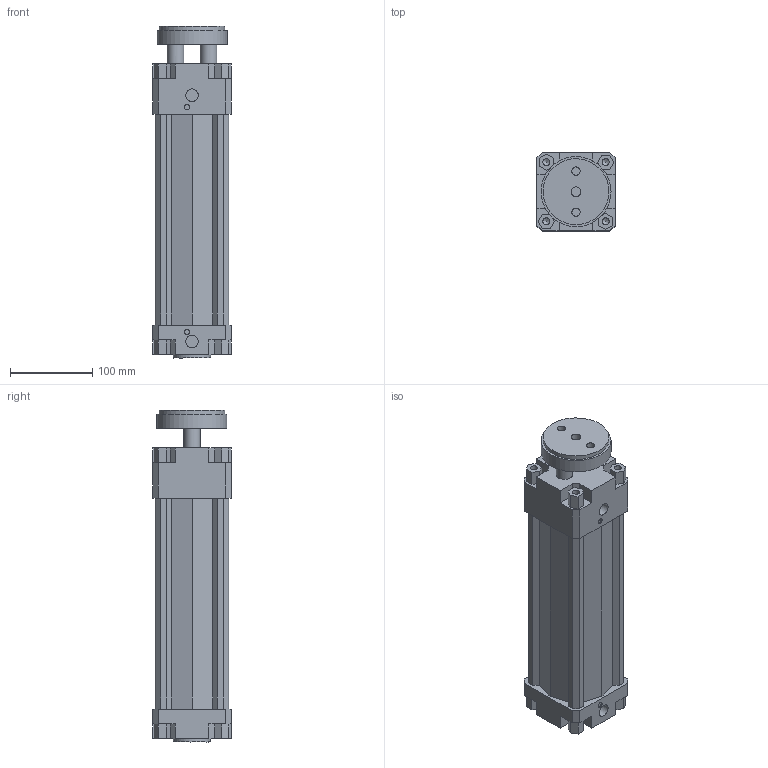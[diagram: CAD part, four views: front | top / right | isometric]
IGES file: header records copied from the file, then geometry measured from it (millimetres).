
Global section: file name: 134#_080_0200_01; native system: Autodesk Inventor 2014; preprocessor: unknown; author: A. Manieri; date: 20161006.165206; units: millimetre
Bounding box: 95 x 95 x 403 mm (x, y, z)
Volume: 1814305.8 mm3; surface area: 323717.9 mm2
Topology: 2 solids, 2 shells, 180 faces, 491 edges, 335 vertices
Faces by surface type: bspline 180
